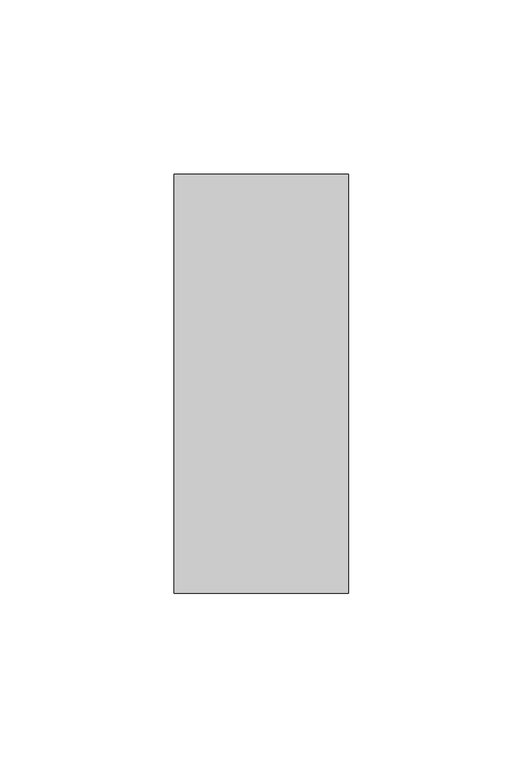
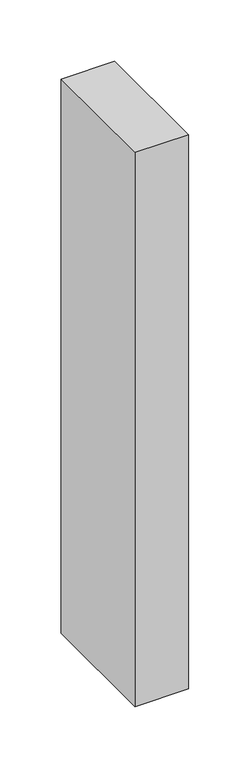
"""IFC4 building model written with IfcOpenShell, lengths in millimetres: member geometry, Прямоугольный импост : 50х120 мм."""

from ifc_helpers import new_model, si_unit, frame, origin, place, context, project, spatial, polyline, outline, extrude, source, transform, mapped, element, save


def member_79c3f76f(model_context):
    return source(origin(), model_context, "Body", "SweptSolid", [
        extrude(outline(polyline([(25.0, 60.0), (25.0, -60.0), (-25.0, -60.0), (-25.0, 60.0), (25.0, 60.0)])), frame((0.0, 0.0, -550.0), z_axis=(0.0, 0.0, 1.0), x_axis=(1.0, 0.0, 0.0)), (0.0, 0.0, 1.0), 550.0),
    ])


if __name__ == "__main__":
    model = new_model("IFC4")
    model_context = context("Model", 3, world=origin())
    ifc_project = project(units=[si_unit("LENGTHUNIT", "METRE", prefix="MILLI")], contexts=[model_context])
    site = spatial("IfcSite", under=ifc_project)
    building = spatial("IfcBuilding", under=site)
    placement = place(None, origin())
    member_shape = member_79c3f76f(model_context)
    element("IfcMember", 1, ObjectType="Прямоугольный импост : 50х120 мм", at=placement, inside=building, context=model_context, shape_type="MappedRepresentation", body=[
        mapped(member_shape, transform((0.0, 0.0, 0.0), x_axis=(1.0, 0.0, 0.0), y_axis=(0.0, 1.0, 0.0), z_axis=(0.0, 0.0, 1.0))),
    ])
    save(model, "model.ifc")
